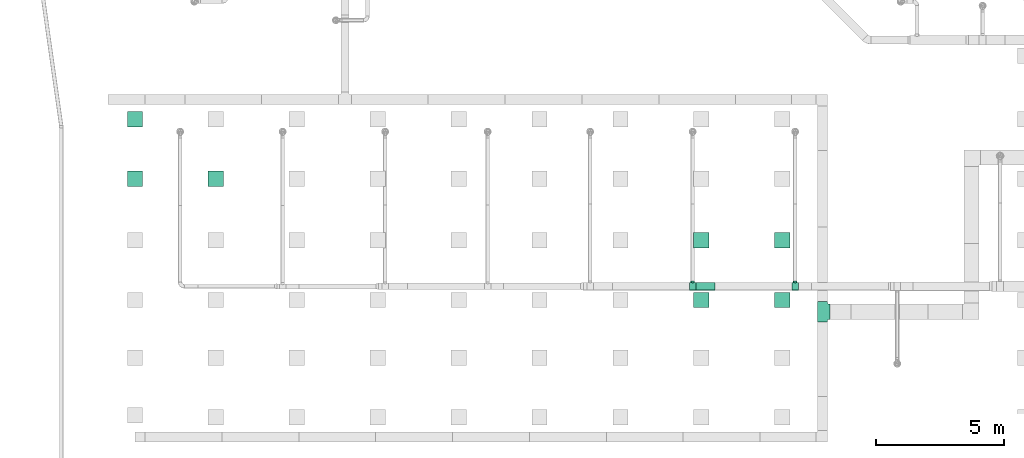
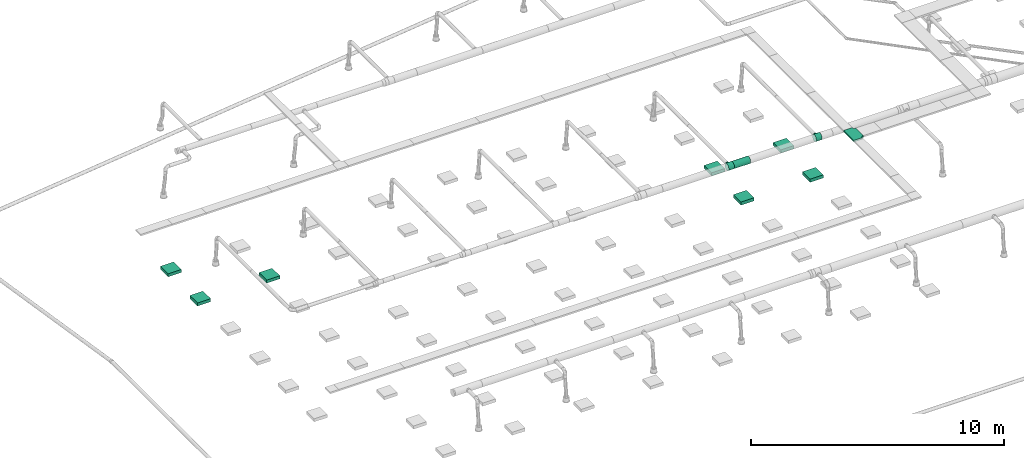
# One storey, part 29 of 374: 8 distribution elements, 2 flow fittings, 1 flow segment.
"""IFC2X3 building model written with IfcOpenShell, lengths in metres."""

from ifc_helpers import new_model, si_unit, direction, frame, frame_2d, origin, place, context, subcontext, project, spatial, rectangle, extrude, open_shell, surface_model, source, transform, mapped, element, save


model = new_model("IFC2X3")

# Units and contexts
model_context = context("Model", 3, precision=1e-05, world=origin(), true_north=direction((-0.4480736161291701, 0.8939966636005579)))
body_context = subcontext(model_context, "Body", "Model", "MODEL_VIEW")
ifc_project = project(units=[si_unit("LENGTHUNIT", "METRE"), si_unit("AREAUNIT", "SQUARE_METRE"), si_unit("VOLUMEUNIT", "CUBIC_METRE"), si_unit("PLANEANGLEUNIT", "RADIAN"), si_unit("THERMODYNAMICTEMPERATUREUNIT", "KELVIN"), si_unit("MASSUNIT", "GRAM", prefix="KILO"), si_unit("TIMEUNIT", "SECOND")], contexts=[model_context])

# Site, building, storey
site_placement = place(None, origin())
site = spatial("IfcSite", under=ifc_project, at=site_placement, Name="Site 1", CompositionType="ELEMENT")
building_placement = place(site_placement, origin())
building = spatial("IfcBuilding", under=site, at=building_placement, Name="Undefined", CompositionType="ELEMENT")
storey_placement = place(building_placement, origin())
storey = spatial("IfcBuildingStorey", under=building, at=storey_placement, Name="Rez de chauss\x8ee", CompositionType="ELEMENT", Elevation=0.0)

# Flow fittings
shared_shape_1 = source(origin(), body_context, "Body", "SurfaceModel", [
    surface_model("IfcFaceBasedSurfaceModel", [(0.0, 0.04111575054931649, 0.0), (0.0, 0.0, 0.0), (0.2599999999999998, -7.105427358e-15, 0.0), (0.259999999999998, 0.041115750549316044, 0.0), (0.0, -0.03971476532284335, -0.010641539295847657), (0.259999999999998, -0.03971476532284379, -0.010641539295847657), (0.0, -0.0753220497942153, -0.0311994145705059), (0.259999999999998, -0.07532204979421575, -0.0311994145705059), (0.0, -0.10439527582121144, -0.060272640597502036), (0.259999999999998, -0.10439527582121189, -0.060272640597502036), (0.0, -0.12495315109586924, -0.09587992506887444), (0.259999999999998, -0.12495315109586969, -0.09587992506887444), (0.0, -0.13559469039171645, -0.13559469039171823), (0.259999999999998, -0.1355946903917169, -0.13559469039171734), (0.0, -0.135594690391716, -0.17671044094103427), (0.259999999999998, -0.13559469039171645, -0.1767104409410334), (0.0, -0.1249531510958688, -0.21642520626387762), (0.259999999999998, -0.12495315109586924, -0.21642520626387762), (0.0, -0.10439527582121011, -0.2520324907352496), (0.259999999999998, -0.10439527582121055, -0.2520324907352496), (0.0, -0.07532204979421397, -0.2811057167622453), (0.259999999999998, -0.07532204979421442, -0.2811057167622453), (0.0, -0.039714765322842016, -0.3016635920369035), (0.259999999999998, -0.03971476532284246, -0.3016635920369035), (0.0, 1.776356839e-15, -0.3123051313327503), (0.259999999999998, 1.33226763e-15, -0.3123051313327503), (0.0, 0.041115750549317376, -0.31230513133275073), (0.259999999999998, 0.04111575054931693, -0.31230513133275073), (0.0, 0.08083051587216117, -0.30166359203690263), (0.259999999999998, 0.08083051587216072, -0.30166359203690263), (0.0, 0.11643780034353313, -0.28110571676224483), (0.259999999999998, 0.11643780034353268, -0.28110571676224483), (0.0, 0.14551102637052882, -0.25203249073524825), (0.259999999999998, 0.14551102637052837, -0.25203249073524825), (0.0, 0.16606890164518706, -0.2164252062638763), (0.259999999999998, 0.16606890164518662, -0.21642520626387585), (0.0, 0.17671044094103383, -0.1767104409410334), (0.259999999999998, 0.1767104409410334, -0.1767104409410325), (0.0, 0.17671044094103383, -0.1355946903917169), (0.259999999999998, 0.1767104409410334, -0.13559469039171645), (0.0, 0.16606890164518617, -0.09587992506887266), (0.259999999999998, 0.16606890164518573, -0.09587992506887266), (0.0, 0.14551102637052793, -0.06027264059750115), (0.259999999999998, 0.14551102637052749, -0.06027264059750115), (0.0, 0.1164378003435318, -0.031199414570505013), (0.259999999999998, 0.11643780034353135, -0.031199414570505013), (0.0, 0.08083051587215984, -0.010641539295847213), (0.259999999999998, 0.08083051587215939, -0.010641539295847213), (0.21000000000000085, 0.1767104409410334, -0.1767104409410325), (0.2072740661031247, 0.1726525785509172, -0.19706040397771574), (0.2072740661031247, 0.22605868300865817, -0.20409145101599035), (0.21000000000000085, 0.22876129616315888, -0.18356306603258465), (0.19928203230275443, 0.16636954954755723, -0.21569419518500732), (0.19928203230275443, 0.22354024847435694, -0.2232208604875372), (0.18656854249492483, 0.15890731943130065, -0.2314232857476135), (0.18656854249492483, 0.22137761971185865, -0.23964765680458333), (0.1699999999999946, 0.15174813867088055, -0.2433039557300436), (0.1699999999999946, 0.21971817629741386, -0.2522523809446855), (0.15070552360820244, 0.14653802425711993, -0.25067902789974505), (0.15070552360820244, 0.21867500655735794, -0.2601760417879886), (0.12999999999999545, 0.14462474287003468, -0.25317659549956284), (0.12999999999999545, 0.218319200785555, -0.26287865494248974), (0.10929447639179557, 0.14653802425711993, -0.25067902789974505), (0.10929447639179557, 0.21867500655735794, -0.2601760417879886), (0.0899999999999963, 0.15174813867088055, -0.2433039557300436), (0.0899999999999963, 0.21971817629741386, -0.2522523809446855), (0.07343145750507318, 0.15890731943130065, -0.2314232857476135), (0.07343145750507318, 0.22137761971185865, -0.23964765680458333), (0.06071796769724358, 0.16636954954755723, -0.21569419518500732), (0.06071796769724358, 0.22354024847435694, -0.2232208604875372), (0.0527259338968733, 0.1726525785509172, -0.19706040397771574), (0.0527259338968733, 0.22605868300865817, -0.20409145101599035), (0.04999999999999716, 0.1767104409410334, -0.1767104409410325), (0.04999999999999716, 0.22876129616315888, -0.18356306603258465), (0.0527259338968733, 0.17805780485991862, -0.15600363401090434), (0.0527259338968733, 0.2314639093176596, -0.16303468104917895), (0.06071796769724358, 0.1768116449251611, -0.13637860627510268), (0.06071796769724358, 0.23398234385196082, -0.14390527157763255), (0.07343145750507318, 0.1736746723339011, -0.11925410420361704), (0.07343145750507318, 0.2361449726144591, -0.12747847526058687), (0.0899999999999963, 0.1698343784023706, -0.10592532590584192), (0.0899999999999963, 0.2378044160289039, -0.11487375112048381), (0.10929447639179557, 0.16671060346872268, -0.09745307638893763), (0.10929447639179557, 0.23884758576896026, -0.10695009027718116), (0.12999999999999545, 0.16550893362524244, -0.09454541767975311), (0.12999999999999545, 0.23920339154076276, -0.10424747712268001), (0.15070552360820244, 0.16671060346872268, -0.09745307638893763), (0.15070552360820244, 0.23884758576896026, -0.10695009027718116), (0.1699999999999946, 0.1698343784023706, -0.10592532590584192), (0.1699999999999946, 0.2378044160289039, -0.11487375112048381), (0.18656854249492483, 0.1736746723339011, -0.11925410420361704), (0.18656854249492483, 0.2361449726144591, -0.12747847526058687), (0.19928203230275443, 0.1768116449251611, -0.13637860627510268), (0.19928203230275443, 0.23398234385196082, -0.14390527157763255), (0.2072740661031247, 0.17805780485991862, -0.15600363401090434), (0.2072740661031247, 0.2314639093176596, -0.16303468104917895)], [open_shell([[[0, 1, 2, 3]], [[1, 4, 5, 2]], [[4, 6, 7, 5]], [[6, 8, 9, 7]], [[8, 10, 11, 9]], [[10, 12, 13, 11]], [[12, 14, 15, 13]], [[14, 16, 17, 15]], [[16, 18, 19, 17]], [[18, 20, 21, 19]], [[20, 22, 23, 21]], [[22, 24, 25, 23]], [[24, 26, 27, 25]], [[26, 28, 29, 27]], [[28, 30, 31, 29]], [[30, 32, 33, 31]], [[32, 34, 35, 33]], [[34, 36, 37, 35]], [[36, 38, 39, 37]], [[38, 40, 41, 39]], [[40, 42, 43, 41]], [[42, 44, 45, 43]], [[44, 46, 47, 45]], [[46, 0, 3, 47]], [[48, 49, 50, 51]], [[49, 52, 53, 50]], [[52, 54, 55, 53]], [[54, 56, 57, 55]], [[56, 58, 59, 57]], [[58, 60, 61, 59]], [[60, 62, 63, 61]], [[62, 64, 65, 63]], [[64, 66, 67, 65]], [[66, 68, 69, 67]], [[68, 70, 71, 69]], [[70, 72, 73, 71]], [[72, 74, 75, 73]], [[74, 76, 77, 75]], [[76, 78, 79, 77]], [[78, 80, 81, 79]], [[80, 82, 83, 81]], [[82, 84, 85, 83]], [[84, 86, 87, 85]], [[86, 88, 89, 87]], [[88, 90, 91, 89]], [[90, 92, 93, 91]], [[92, 94, 95, 93]], [[94, 48, 51, 95]]])]),
])
flow_fitting_1_placement = place(storey_placement, origin())
element("IfcFlowFitting", 1, at=flow_fitting_1_placement, inside=storey, Name="Pièce en té 90°", ObjectType="Pièce en té 90°", context=body_context, shape_type="MappedRepresentation", body=[
    mapped(shared_shape_1, transform((26.850053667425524, 10.878429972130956, 3.952133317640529), x_axis=(1.0, 0.0, 0.0), y_axis=(0.0, 0.9914448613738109, 0.1305261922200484), z_axis=(0.0, -0.1305261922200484, 0.9914448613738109))),
])
flow_fitting_2_placement = place(storey_placement, origin())
element("IfcFlowFitting", 2, at=flow_fitting_2_placement, inside=storey, Name="Pièce en té 90°", ObjectType="Pièce en té 90°", context=body_context, shape_type="MappedRepresentation", body=[
    mapped(shared_shape_1, transform((22.85005357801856, 10.878429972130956, 3.952133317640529), x_axis=(1.0, 0.0, 0.0), y_axis=(0.0, 0.9914448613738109, 0.1305261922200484), z_axis=(0.0, -0.1305261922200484, 0.9914448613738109))),
])

# Flow segment
shared_shape_2 = source(origin(), body_context, "Body", "SurfaceModel", [
    surface_model("IfcFaceBasedSurfaceModel", [(0.0, 0.04111575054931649, 0.0), (0.0, 0.0, 0.0), (0.7400000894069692, 4.4408921e-16, 0.0), (0.7400000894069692, 0.04111575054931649, -4.4408921e-16), (0.0, -0.03971476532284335, -0.010641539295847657), (0.7400000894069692, -0.03971476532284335, -0.010641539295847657), (0.0, -0.0753220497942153, -0.0311994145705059), (0.7400000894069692, -0.0753220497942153, -0.0311994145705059), (0.0, -0.10439527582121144, -0.060272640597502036), (0.7400000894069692, -0.10439527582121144, -0.060272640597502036), (0.0, -0.12495315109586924, -0.09587992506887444), (0.7400000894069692, -0.12495315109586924, -0.09587992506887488), (0.0, -0.13559469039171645, -0.13559469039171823), (0.7400000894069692, -0.13559469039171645, -0.13559469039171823), (0.0, -0.135594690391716, -0.17671044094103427), (0.7400000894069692, -0.13559469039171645, -0.17671044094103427), (0.0, -0.1249531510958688, -0.21642520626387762), (0.7400000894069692, -0.1249531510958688, -0.21642520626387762), (0.0, -0.10439527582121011, -0.2520324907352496), (0.7400000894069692, -0.10439527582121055, -0.2520324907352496), (0.0, -0.07532204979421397, -0.2811057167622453), (0.7400000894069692, -0.07532204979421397, -0.2811057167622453), (0.0, -0.039714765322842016, -0.3016635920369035), (0.7400000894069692, -0.039714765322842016, -0.3016635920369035), (0.0, 1.776356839e-15, -0.3123051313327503), (0.7400000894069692, 1.776356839e-15, -0.31230513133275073), (0.0, 0.041115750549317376, -0.31230513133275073), (0.7400000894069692, 0.041115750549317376, -0.31230513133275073), (0.0, 0.08083051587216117, -0.30166359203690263), (0.7400000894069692, 0.08083051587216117, -0.30166359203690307), (0.0, 0.11643780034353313, -0.28110571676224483), (0.7400000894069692, 0.11643780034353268, -0.28110571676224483), (0.0, 0.14551102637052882, -0.25203249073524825), (0.7400000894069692, 0.14551102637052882, -0.25203249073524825), (0.0, 0.16606890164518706, -0.2164252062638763), (0.7400000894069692, 0.16606890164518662, -0.2164252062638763), (0.0, 0.17671044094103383, -0.1767104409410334), (0.7400000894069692, 0.17671044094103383, -0.1767104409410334), (0.0, 0.17671044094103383, -0.1355946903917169), (0.7400000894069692, 0.17671044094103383, -0.1355946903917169), (0.0, 0.16606890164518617, -0.09587992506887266), (0.7400000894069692, 0.16606890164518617, -0.09587992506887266), (0.0, 0.14551102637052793, -0.06027264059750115), (0.7400000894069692, 0.14551102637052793, -0.06027264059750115), (0.0, 0.1164378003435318, -0.031199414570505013), (0.7400000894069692, 0.1164378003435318, -0.031199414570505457), (0.0, 0.08083051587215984, -0.010641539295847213), (0.7400000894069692, 0.08083051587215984, -0.010641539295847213)], [open_shell([[[0, 1, 2, 3]], [[1, 4, 5, 2]], [[4, 6, 7, 5]], [[6, 8, 9, 7]], [[8, 10, 11, 9]], [[10, 12, 13, 11]], [[12, 14, 15, 13]], [[14, 16, 17, 15]], [[16, 18, 19, 17]], [[18, 20, 21, 19]], [[20, 22, 23, 21]], [[22, 24, 25, 23]], [[24, 26, 27, 25]], [[26, 28, 29, 27]], [[28, 30, 31, 29]], [[30, 32, 33, 31]], [[32, 34, 35, 33]], [[34, 36, 37, 35]], [[36, 38, 39, 37]], [[38, 40, 41, 39]], [[40, 42, 43, 41]], [[42, 44, 45, 43]], [[44, 46, 47, 45]], [[46, 0, 3, 47]]])]),
])
flow_segment_placement = place(storey_placement, origin())
element("IfcFlowSegment", 3, at=flow_segment_placement, inside=storey, Name="Tube", ObjectType="Tube", context=body_context, shape_type="MappedRepresentation", body=[
    mapped(shared_shape_2, transform((23.850053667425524, 10.95995797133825, 3.952133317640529), x_axis=(-1.0, 0.0, 0.0), y_axis=(7.266545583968e-12, -0.9914448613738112, 0.13052619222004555), z_axis=(0.0, 0.13052619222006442, 0.9914448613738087))),
])

# Distribution elements
shared_shape_3 = source(origin(), body_context, "Body", "SurfaceModel", [
    surface_model("IfcFaceBasedSurfaceModel", [(0.0, 0.049999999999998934, 0.0), (0.0, 0.0, 0.0), (0.08000000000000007, 0.0, 5.82867088e-16), (0.08000000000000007, 0.04999999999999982, 0.0), (0.08000000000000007, -0.04999999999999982, 0.04999999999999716), (0.08000000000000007, -0.04829629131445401, 0.03705904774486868), (0.0, -0.04829629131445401, 0.03705904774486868), (0.0, -0.04999999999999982, 0.04999999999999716), (0.08000000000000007, -0.0433012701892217, 0.02499999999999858), (0.0, -0.0433012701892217, 0.02499999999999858), (0.08000000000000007, -0.035355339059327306, 0.014644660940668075), (0.0, -0.035355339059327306, 0.014644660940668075), (0.08000000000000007, -0.025000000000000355, 0.006698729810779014), (0.0, -0.025000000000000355, 0.006698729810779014), (0.08000000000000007, -0.012940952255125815, 0.001703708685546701), (0.0, -0.012940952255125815, 0.001703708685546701), (0.0, -0.04999999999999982, 0.10000000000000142), (0.08000000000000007, -0.04999999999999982, 0.10000000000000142), (0.0, -0.6500000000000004, 0.10000000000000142), (0.0, -0.6500000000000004, 0.04999999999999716), (0.08000000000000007, -0.6500000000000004, 0.04999999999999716), (0.08000000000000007, -0.6500000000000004, 0.10000000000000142), (0.08000000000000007, -0.7000000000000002, 0.0), (0.08000000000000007, -0.6870590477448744, 0.001703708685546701), (0.0, -0.6870590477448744, 0.001703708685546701), (0.0, -0.7000000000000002, 0.0), (0.08000000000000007, -0.6749999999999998, 0.006698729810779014), (0.0, -0.6749999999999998, 0.006698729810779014), (0.08000000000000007, -0.664644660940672, 0.014644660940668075), (0.0, -0.664644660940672, 0.014644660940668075), (0.08000000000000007, -0.6566987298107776, 0.02499999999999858), (0.0, -0.6566987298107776, 0.02499999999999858), (0.08000000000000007, -0.6517037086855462, 0.03705904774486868), (0.0, -0.6517037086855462, 0.03705904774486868), (0.0, -0.75, 0.0), (0.08000000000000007, -0.75, 0.0), (0.0, -0.75, -0.3999999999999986), (0.0, 0.04999999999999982, -0.3999999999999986), (0.08000000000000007, 0.04999999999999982, -0.3999999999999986), (0.08000000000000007, -0.75, -0.3999999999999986)], [open_shell([[[0, 1, 2, 3]], [[4, 5, 6, 7]], [[5, 8, 9, 6]], [[8, 10, 11, 9]], [[10, 12, 13, 11]], [[12, 14, 15, 13]], [[14, 2, 1, 15]], [[7, 16, 17, 4]], [[18, 19, 20, 21]], [[22, 23, 24, 25]], [[23, 26, 27, 24]], [[26, 28, 29, 27]], [[28, 30, 31, 29]], [[30, 32, 33, 31]], [[32, 20, 19, 33]], [[25, 34, 35, 22]], [[36, 37, 38, 39]], [[39, 38, 2]], [[39, 2, 14]], [[39, 14, 12]], [[39, 12, 10]], [[39, 10, 8]], [[39, 8, 5]], [[39, 5, 4]], [[39, 4, 32]], [[39, 32, 30]], [[39, 30, 28]], [[39, 28, 26]], [[39, 26, 23]], [[39, 23, 22]], [[39, 22, 35]], [[4, 17, 21]], [[4, 21, 20]], [[4, 20, 32]], [[2, 38, 3]], [[1, 37, 36]], [[15, 1, 36]], [[13, 15, 36]], [[11, 13, 36]], [[9, 11, 36]], [[6, 9, 36]], [[7, 6, 36]], [[33, 7, 36]], [[31, 33, 36]], [[29, 31, 36]], [[27, 29, 36]], [[24, 27, 36]], [[25, 24, 36]], [[34, 25, 36]], [[18, 16, 7]], [[19, 18, 7]], [[33, 19, 7]], [[0, 37, 1]]])]),
])
distribution_element_1_placement = place(storey_placement, origin())
element("IfcDistributionElement", 4, at=distribution_element_1_placement, inside=storey, Name="Pièce en té", ObjectType="Pièce en té", context=body_context, shape_type="MappedRepresentation", body=[
    mapped(shared_shape_3, transform((28.244027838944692, 10.27636968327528, 4.18), x_axis=(0.0, 0.0, -1.0), y_axis=(0.0, 1.0, 0.0), z_axis=(1.0, 0.0, 0.0))),
])
distribution_element_2_placement = place(storey_placement, origin())
element("IfcDistributionElement", 5, at=distribution_element_2_placement, inside=storey, Name="Decken-Rechteckleuchte mit Rahmen AP", ObjectType="Decken-Rechteckleuchte mit Rahmen AP", context=body_context, shape_type="SweptSolid", body=[
    extrude(rectangle(XDim=0.6000000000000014, YDim=0.6000000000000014, at=frame_2d((3.552713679e-15, 0.0), x_axis=(0.0, 1.0))), frame((23.320441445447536, 10.3875, 2.5500000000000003), z_axis=(0.0, 0.0, -1.0), x_axis=(1.0, 0.0, 0.0)), (0.0, 0.0, 1.0), 0.15),
])
distribution_element_3_placement = place(storey_placement, origin())
element("IfcDistributionElement", 6, at=distribution_element_3_placement, inside=storey, Name="Decken-Rechteckleuchte mit Rahmen AP", ObjectType="Decken-Rechteckleuchte mit Rahmen AP", context=body_context, shape_type="SweptSolid", body=[
    extrude(rectangle(XDim=0.6000000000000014, YDim=0.6000000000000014, at=frame_2d((3.552713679e-15, 0.0), x_axis=(0.0, 1.0))), frame((4.373387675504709, 15.1125, 2.5500000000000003), z_axis=(0.0, 0.0, -1.0), x_axis=(1.0, 0.0, 0.0)), (0.0, 0.0, 1.0), 0.15),
])
distribution_element_4_placement = place(storey_placement, origin())
element("IfcDistributionElement", 7, at=distribution_element_4_placement, inside=storey, Name="Decken-Rechteckleuchte mit Rahmen AP", ObjectType="Decken-Rechteckleuchte mit Rahmen AP", context=body_context, shape_type="SweptSolid", body=[
    extrude(rectangle(XDim=0.6000000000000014, YDim=0.6000000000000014, at=frame_2d((3.552713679e-15, 0.0), x_axis=(0.0, 1.0))), frame((1.2155453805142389, 17.437499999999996, 2.5500000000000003), z_axis=(0.0, 0.0, -1.0), x_axis=(1.0, 0.0, 0.0)), (0.0, 0.0, 1.0), 0.15),
])
distribution_element_5_placement = place(storey_placement, origin())
element("IfcDistributionElement", 8, at=distribution_element_5_placement, inside=storey, Name="Decken-Rechteckleuchte mit Rahmen AP", ObjectType="Decken-Rechteckleuchte mit Rahmen AP", context=body_context, shape_type="SweptSolid", body=[
    extrude(rectangle(XDim=0.6000000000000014, YDim=0.6000000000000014, at=frame_2d((3.552713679e-15, 0.0), x_axis=(0.0, 1.0))), frame((1.2155453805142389, 15.1125, 2.5500000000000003), z_axis=(0.0, 0.0, -1.0), x_axis=(1.0, 0.0, 0.0)), (0.0, 0.0, 1.0), 0.15),
])
distribution_element_6_placement = place(storey_placement, origin())
element("IfcDistributionElement", 9, at=distribution_element_6_placement, inside=storey, Name="Decken-Rechteckleuchte mit Rahmen AP", ObjectType="Decken-Rechteckleuchte mit Rahmen AP", context=body_context, shape_type="SweptSolid", body=[
    extrude(rectangle(XDim=0.6000000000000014, YDim=0.6000000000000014, at=frame_2d((3.552713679e-15, 0.0), x_axis=(0.0, 1.0))), frame((23.320441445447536, 12.712499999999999, 2.5500000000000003), z_axis=(0.0, 0.0, -1.0), x_axis=(1.0, 0.0, 0.0)), (0.0, 0.0, 1.0), 0.15),
])
distribution_element_7_placement = place(storey_placement, origin())
element("IfcDistributionElement", 10, at=distribution_element_7_placement, inside=storey, Name="Decken-Rechteckleuchte mit Rahmen AP", ObjectType="Decken-Rechteckleuchte mit Rahmen AP", context=body_context, shape_type="SweptSolid", body=[
    extrude(rectangle(XDim=0.6000000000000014, YDim=0.6000000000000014, at=frame_2d((3.552713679e-15, 0.0), x_axis=(0.0, 1.0))), frame((26.478283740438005, 12.712499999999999, 2.5500000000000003), z_axis=(0.0, 0.0, -1.0), x_axis=(1.0, 0.0, 0.0)), (0.0, 0.0, 1.0), 0.15),
])
distribution_element_8_placement = place(storey_placement, origin())
element("IfcDistributionElement", 11, at=distribution_element_8_placement, inside=storey, Name="Decken-Rechteckleuchte mit Rahmen AP", ObjectType="Decken-Rechteckleuchte mit Rahmen AP", context=body_context, shape_type="SweptSolid", body=[
    extrude(rectangle(XDim=0.6000000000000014, YDim=0.6000000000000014, at=frame_2d((3.552713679e-15, 0.0), x_axis=(0.0, 1.0))), frame((26.478283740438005, 10.3875, 2.5500000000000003), z_axis=(0.0, 0.0, -1.0), x_axis=(1.0, 0.0, 0.0)), (0.0, 0.0, 1.0), 0.15),
])

save(model, "model.ifc")
